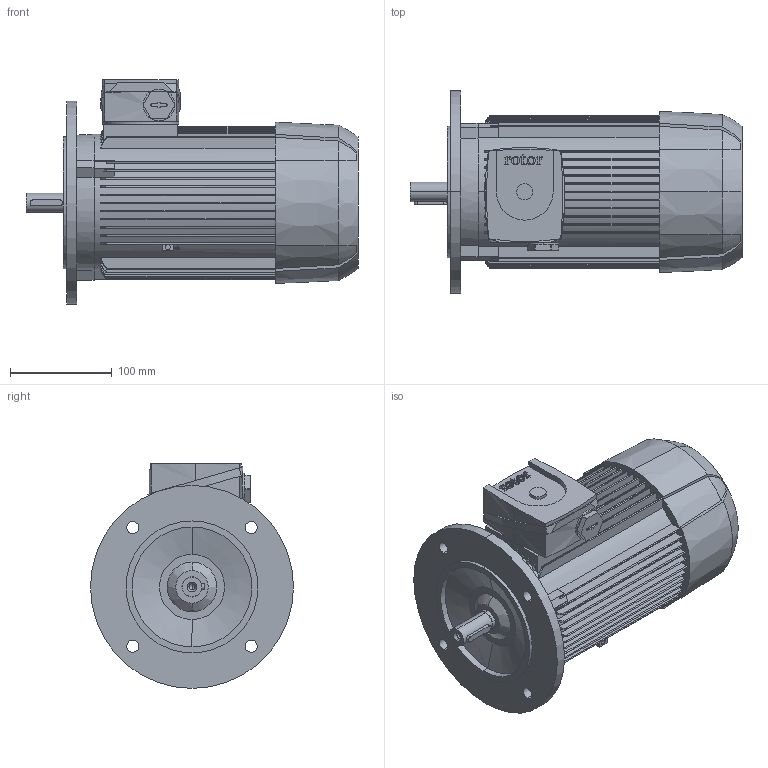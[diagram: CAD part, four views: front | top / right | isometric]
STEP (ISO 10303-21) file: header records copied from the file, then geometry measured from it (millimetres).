
FILE_DESCRIPTION (( 'STEP AP203' ), '1' );
FILE_NAME ('6RN80M02E26 IM3041.STEP', '2017-01-17T14:25:32', ( 'rotor' ), ( 'Hewlett-Packard Company' ), 'SwSTEP 2.0', 'SolidWorks 2015', '' );
FILE_SCHEMA (( 'CONFIG_CONTROL_DESIGN' ));
Length unit declared in the file: millimetre
Products named in the file (1): 6RN80M02E26 IM3041
Bounding box: 327 x 200 x 221.5 mm (x, y, z)
Volume: 4973521.6 mm3; surface area: 345430.5 mm2
Topology: 1 solids, 1 shells, 553 faces, 1547 edges, 1020 vertices
Faces by surface type: plane 312, cylinder 122, bspline 102, cone 17
Entity records: 21000 total; most frequent: CARTESIAN_POINT 7246, ORIENTED_EDGE 3090, DIRECTION 2551, EDGE_CURVE 1545, VERTEX_POINT 1020, LINE 855, VECTOR 855, AXIS2_PLACEMENT_3D 848
